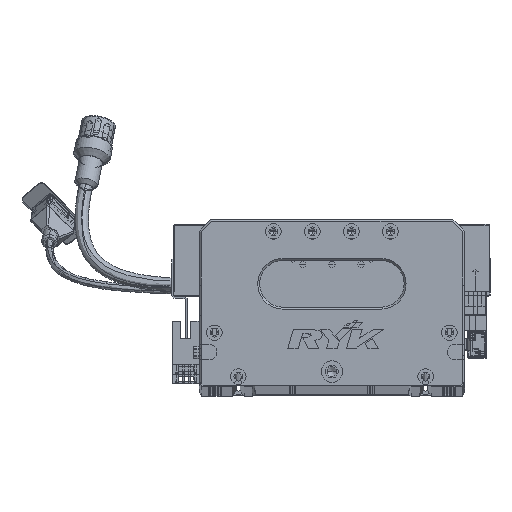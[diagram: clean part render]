
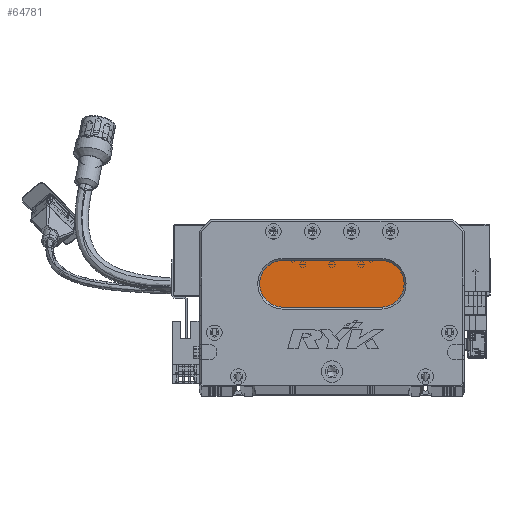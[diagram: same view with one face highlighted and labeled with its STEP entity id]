
A CAD part, top view. The second image highlights one B-rep face of the part: STEP entity #64781.
In plain terms, the highlighted planar face has unit normal (0, 0, 1) as drawn and (0, 0, -1) by its records, which use the part's own axes.
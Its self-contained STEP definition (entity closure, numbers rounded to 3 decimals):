
#6755 = DIRECTION ( 'NONE',  ( -1., 0., 0. ) ) ;
#11783 = VECTOR ( 'NONE', #129716, 1000. ) ;
#12521 = ORIENTED_EDGE ( 'NONE', *, *, #125889, .T. ) ;
#15930 = VERTEX_POINT ( 'NONE', #100413 ) ;
#18209 = ORIENTED_EDGE ( 'NONE', *, *, #120901, .T. ) ;
#19986 = LINE ( 'NONE', #33890, #11783 ) ;
#20518 = VERTEX_POINT ( 'NONE', #85903 ) ;
#20836 = PLANE ( 'NONE',  #71300 ) ;
#21727 = CARTESIAN_POINT ( 'NONE',  ( 93., 52., 13. ) ) ;
#25673 = AXIS2_PLACEMENT_3D ( 'NONE', #113429, #29570, #61834 ) ;
#29570 = DIRECTION ( 'NONE',  ( 0., 0., -1. ) ) ;
#31004 = CARTESIAN_POINT ( 'NONE',  ( 93., 52., 13. ) ) ;
#31603 = EDGE_CURVE ( 'NONE', #111229, #55295, #132731, .T. ) ;
#32373 = DIRECTION ( 'NONE',  ( 0., 0., -1. ) ) ;
#33890 = CARTESIAN_POINT ( 'NONE',  ( 93., 64., 13. ) ) ;
#40912 = ORIENTED_EDGE ( 'NONE', *, *, #31603, .T. ) ;
#46188 = EDGE_LOOP ( 'NONE', ( #129680, #18209, #88679, #40912, #12521 ) ) ;
#47212 = CARTESIAN_POINT ( 'NONE',  ( 31., 52., 13. ) ) ;
#47611 = LINE ( 'NONE', #51643, #128345 ) ;
#47872 = CARTESIAN_POINT ( 'NONE',  ( 93., 64., 13. ) ) ;
#48631 = AXIS2_PLACEMENT_3D ( 'NONE', #21727, #106074, #125925 ) ;
#51643 = CARTESIAN_POINT ( 'NONE',  ( 93., 40., 13. ) ) ;
#51772 = DIRECTION ( 'NONE',  ( -1., 0., 0. ) ) ;
#55295 = VERTEX_POINT ( 'NONE', #58329 ) ;
#58329 = CARTESIAN_POINT ( 'NONE',  ( 43., 64., 13. ) ) ;
#61834 = DIRECTION ( 'NONE',  ( -1., 0., 0. ) ) ;
#62232 = DIRECTION ( 'NONE',  ( -1., 0., 0. ) ) ;
#64781 = ADVANCED_FACE ( 'NONE', ( #118114 ), #20836, .T. ) ;
#69957 = DIRECTION ( 'NONE',  ( 0., 0., -1. ) ) ;
#70373 = EDGE_CURVE ( 'NONE', #121224, #15930, #103721, .T. ) ;
#71300 = AXIS2_PLACEMENT_3D ( 'NONE', #31004, #32373, #51772 ) ;
#85903 = CARTESIAN_POINT ( 'NONE',  ( 43., 40., 13. ) ) ;
#88679 = ORIENTED_EDGE ( 'NONE', *, *, #119572, .T. ) ;
#91534 = CARTESIAN_POINT ( 'NONE',  ( 43., 52., 13. ) ) ;
#100413 = CARTESIAN_POINT ( 'NONE',  ( 93., 40., 13. ) ) ;
#103721 = CIRCLE ( 'NONE', #48631, 12. ) ;
#106074 = DIRECTION ( 'NONE',  ( 0., 0., -1. ) ) ;
#111229 = VERTEX_POINT ( 'NONE', #47212 ) ;
#113429 = CARTESIAN_POINT ( 'NONE',  ( 43., 52., 13. ) ) ;
#118114 = FACE_OUTER_BOUND ( 'NONE', #46188, .T. ) ;
#119572 = EDGE_CURVE ( 'NONE', #20518, #111229, #123717, .T. ) ;
#120901 = EDGE_CURVE ( 'NONE', #15930, #20518, #47611, .T. ) ;
#121224 = VERTEX_POINT ( 'NONE', #47872 ) ;
#123717 = CIRCLE ( 'NONE', #25673, 12. ) ;
#125889 = EDGE_CURVE ( 'NONE', #55295, #121224, #19986, .T. ) ;
#125925 = DIRECTION ( 'NONE',  ( -1., 0., 0. ) ) ;
#128345 = VECTOR ( 'NONE', #62232, 1000. ) ;
#129680 = ORIENTED_EDGE ( 'NONE', *, *, #70373, .T. ) ;
#129716 = DIRECTION ( 'NONE',  ( 1., 0., 0. ) ) ;
#132731 = CIRCLE ( 'NONE', #136717, 12. ) ;
#136717 = AXIS2_PLACEMENT_3D ( 'NONE', #91534, #69957, #6755 ) ;
